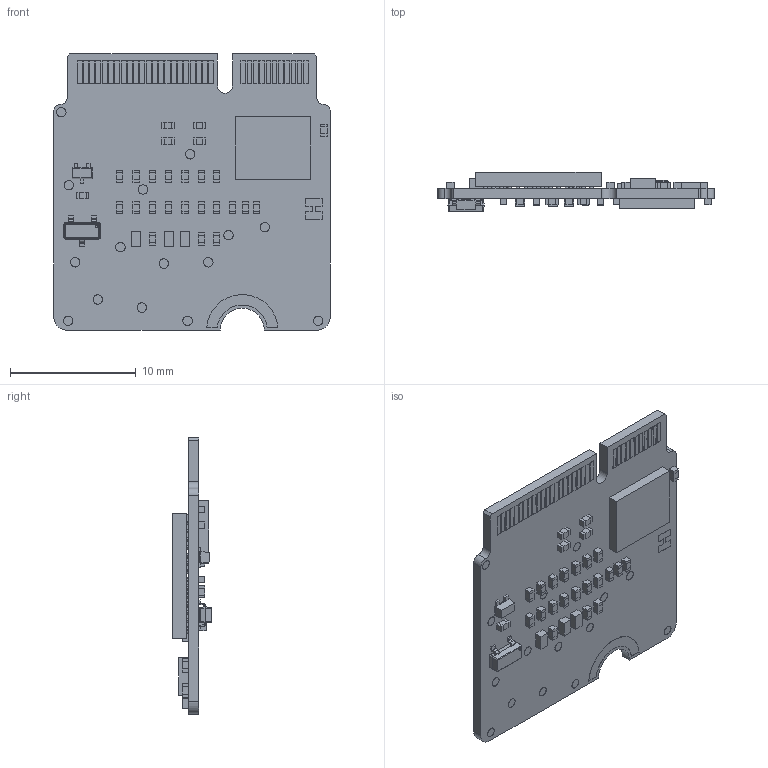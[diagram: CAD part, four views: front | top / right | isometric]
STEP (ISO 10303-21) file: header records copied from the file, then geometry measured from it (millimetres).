
FILE_DESCRIPTION (( 'STEP AP214' ), '1' );
FILE_NAME ('DEV-16402.STEP', '2022-01-21T07:52:03', ( '' ), ( '' ), 'SwSTEP 2.0', 'SolidWorks 2017', '' );
FILE_SCHEMA (( 'AUTOMOTIVE_DESIGN' ));
Length unit declared in the file: millimetre
Products named in the file (1): DEV-16402
Bounding box: 22 x 3.1 x 22 mm (x, y, z)
Volume: 544.8 mm3; surface area: 1816.9 mm2
Topology: 418 solids, 418 shells, 2214 faces, 5015 edges, 2940 vertices
Faces by surface type: plane 1677, bspline 400, cylinder 121, torus 8, cone 8
Entity records: 63912 total; most frequent: CARTESIAN_POINT 15410, DIRECTION 8515, ORIENTED_EDGE 8462, EDGE_CURVE 4231, LINE 3561, VECTOR 3561, VERTEX_POINT 2940, AXIS2_PLACEMENT_3D 2477
